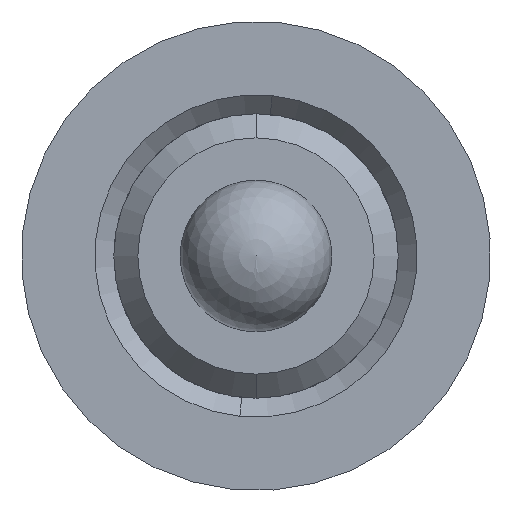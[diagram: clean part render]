
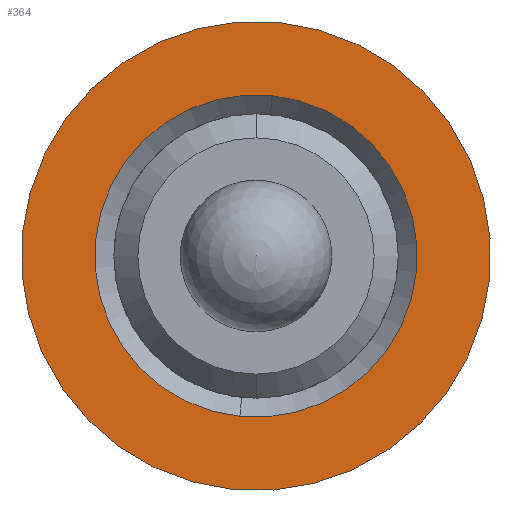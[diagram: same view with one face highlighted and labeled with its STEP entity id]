
A CAD part, left-side view. The second image highlights one B-rep face of the part: STEP entity #364.
In plain terms, the highlighted planar face has unit normal (-1, 0, 0).
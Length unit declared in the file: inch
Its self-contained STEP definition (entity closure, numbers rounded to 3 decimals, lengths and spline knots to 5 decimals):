
#20 = PLANE ( 'NONE',  #1284 ) ;
#92 = CARTESIAN_POINT ( 'NONE',  ( 0.00892, 0.28084, 0.33522 ) ) ;
#97 = DIRECTION ( 'NONE',  ( 1., 0., 0. ) ) ;
#105 = DIRECTION ( 'NONE',  ( 0., 0.995, 0.101 ) ) ;
#252 = DIRECTION ( 'NONE',  ( 0., -0.995, -0.101 ) ) ;
#289 = EDGE_LOOP ( 'NONE', ( #661, #987 ) ) ;
#305 = VERTEX_POINT ( 'NONE', #368 ) ;
#329 = DIRECTION ( 'NONE',  ( -1., 0., 0. ) ) ;
#334 = DIRECTION ( 'NONE',  ( 0., -0.995, -0.101 ) ) ;
#336 = DIRECTION ( 'NONE',  ( -1., 0., 0. ) ) ;
#337 = CARTESIAN_POINT ( 'NONE',  ( 0.00892, 0.18389, 0.32543 ) ) ;
#345 = CARTESIAN_POINT ( 'NONE',  ( 0.00892, 0.18389, 0.32543 ) ) ;
#364 = ADVANCED_FACE ( 'NONE', ( #715, #597 ), #20, .F. ) ;
#368 = CARTESIAN_POINT ( 'NONE',  ( 0.00892, 0.28084, 0.33522 ) ) ;
#401 = CARTESIAN_POINT ( 'NONE',  ( 0.00892, 0.17716, 0.39202 ) ) ;
#402 = EDGE_CURVE ( 'NONE', #305, #763, #1147, .T. ) ;
#481 = DIRECTION ( 'NONE',  ( 0., 0.995, 0.101 ) ) ;
#484 = CIRCLE ( 'NONE', #1177, 0.06693 ) ;
#486 = DIRECTION ( 'NONE',  ( 1., 0., 0. ) ) ;
#487 = CARTESIAN_POINT ( 'NONE',  ( 0.00892, 0.18389, 0.32543 ) ) ;
#597 = FACE_OUTER_BOUND ( 'NONE', #289, .T. ) ;
#618 = CIRCLE ( 'NONE', #1204, 0.09744 ) ;
#661 = ORIENTED_EDGE ( 'NONE', *, *, #1310, .T. ) ;
#715 = FACE_BOUND ( 'NONE', #1378, .T. ) ;
#763 = VERTEX_POINT ( 'NONE', #1025 ) ;
#789 = DIRECTION ( 'NONE',  ( 1., 0., 0. ) ) ;
#799 = EDGE_CURVE ( 'NONE', #1293, #980, #484, .T. ) ;
#858 = CARTESIAN_POINT ( 'NONE',  ( 0.00892, 0.19062, 0.25884 ) ) ;
#952 = DIRECTION ( 'NONE',  ( 0., 0.995, 0.101 ) ) ;
#958 = CARTESIAN_POINT ( 'NONE',  ( 0.00892, 0.18389, 0.32543 ) ) ;
#980 = VERTEX_POINT ( 'NONE', #858 ) ;
#987 = ORIENTED_EDGE ( 'NONE', *, *, #402, .T. ) ;
#1025 = CARTESIAN_POINT ( 'NONE',  ( 0.00892, 0.08694, 0.31563 ) ) ;
#1147 = CIRCLE ( 'NONE', #1241, 0.09744 ) ;
#1163 = AXIS2_PLACEMENT_3D ( 'NONE', #487, #486, #481 ) ;
#1177 = AXIS2_PLACEMENT_3D ( 'NONE', #958, #789, #952 ) ;
#1199 = EDGE_CURVE ( 'NONE', #980, #1293, #1342, .T. ) ;
#1204 = AXIS2_PLACEMENT_3D ( 'NONE', #337, #336, #334 ) ;
#1241 = AXIS2_PLACEMENT_3D ( 'NONE', #345, #329, #252 ) ;
#1248 = ORIENTED_EDGE ( 'NONE', *, *, #1199, .T. ) ;
#1284 = AXIS2_PLACEMENT_3D ( 'NONE', #92, #97, #105 ) ;
#1293 = VERTEX_POINT ( 'NONE', #401 ) ;
#1310 = EDGE_CURVE ( 'NONE', #763, #305, #618, .T. ) ;
#1342 = CIRCLE ( 'NONE', #1163, 0.06693 ) ;
#1378 = EDGE_LOOP ( 'NONE', ( #1383, #1248 ) ) ;
#1383 = ORIENTED_EDGE ( 'NONE', *, *, #799, .T. ) ;
